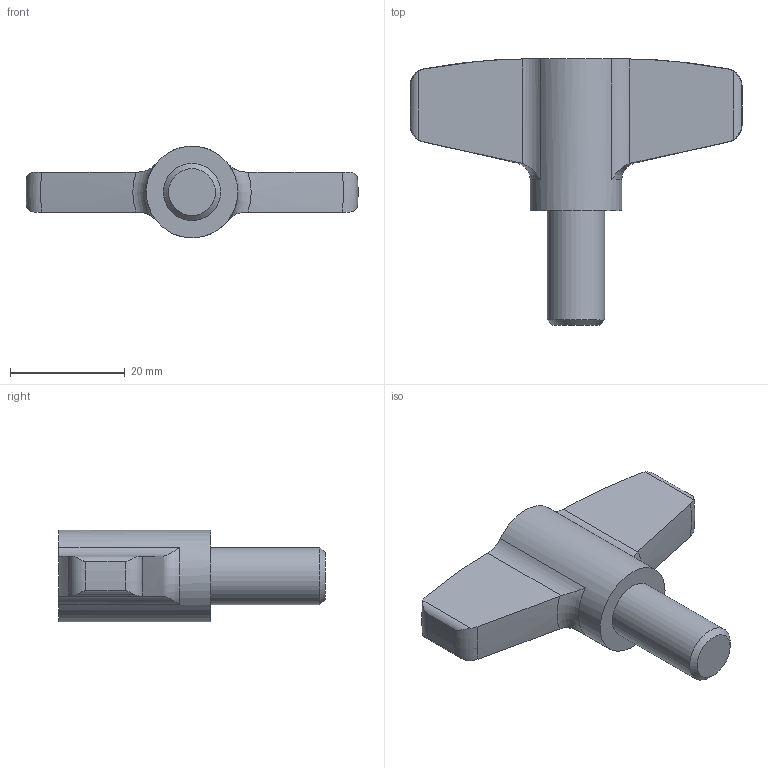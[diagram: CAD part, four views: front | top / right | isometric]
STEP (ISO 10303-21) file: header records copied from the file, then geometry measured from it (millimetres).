
FILE_DESCRIPTION( ( 'STEP AP203' ), '1' );
FILE_NAME( 'C:/Temp/Ganter_Step_05_03_2020/data/2_2/gn_835/Stainless Steel-Wing screw GN 835-58-M10-20-MT.stp', '2020-03-05T12:19:32', ( 'License CC BY-ND 4.0' ), ( 'CADENAS' ), ' ', 'PARTsolutions', ' ' );
FILE_SCHEMA( ( 'CONFIG_CONTROL_DESIGN' ) );
Length unit declared in the file: millimetre
Products named in the file (1): _Stainless Steel-Wing screw GN 835-58-M10-20-MT
Bounding box: 57.97 x 46.5 x 15.98 mm (x, y, z)
Volume: 11545.1 mm3; surface area: 4112.7 mm2
Topology: 1 solids, 1 shells, 30 faces, 76 edges, 49 vertices
Faces by surface type: cylinder 12, plane 7, torus 6, cone 3, bspline 2
Full cylindrical faces by diameter (mm): 10 x1, 16 x1
Entity records: 1166 total; most frequent: CARTESIAN_POINT 477, ORIENTED_EDGE 144, DIRECTION 114, EDGE_CURVE 72, AXIS2_PLACEMENT_3D 49, VERTEX_POINT 48, B_SPLINE_CURVE_WITH_KNOTS 36, EDGE_LOOP 34
